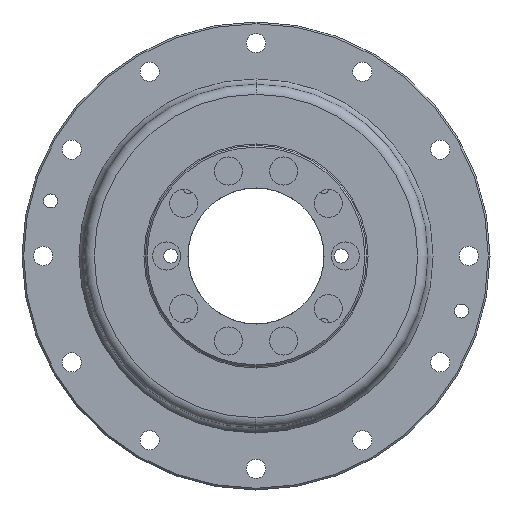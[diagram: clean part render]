
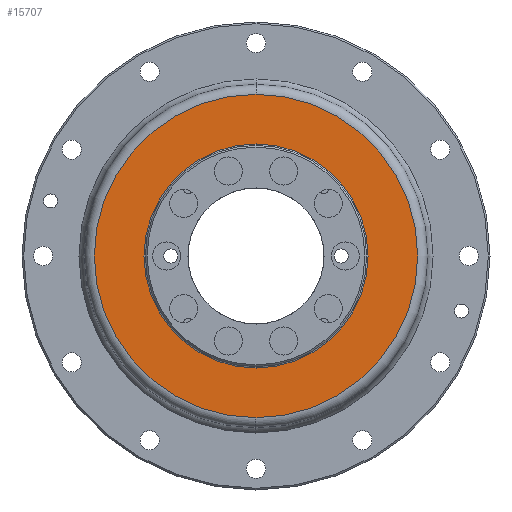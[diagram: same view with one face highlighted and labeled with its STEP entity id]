
A CAD part, left-side view. The second image highlights one B-rep face of the part: STEP entity #15707.
In plain terms, the highlighted planar face has unit normal (-1, 0, 0).
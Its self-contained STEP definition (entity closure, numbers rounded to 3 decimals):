
#686 = CIRCLE ( 'NONE', #1027, 38.004 ) ;
#1015 = CARTESIAN_POINT ( 'NONE',  ( 24.511, 0., 0. ) ) ;
#1027 = AXIS2_PLACEMENT_3D ( 'NONE', #13870, #5548, #15282 ) ;
#1192 = CIRCLE ( 'NONE', #7615, 26.325 ) ;
#1639 = EDGE_CURVE ( 'NONE', #5045, #6490, #16880, .T. ) ;
#1801 = EDGE_CURVE ( 'NONE', #6490, #5045, #1192, .T. ) ;
#1816 = ORIENTED_EDGE ( 'NONE', *, *, #1801, .F. ) ;
#2414 = DIRECTION ( 'NONE',  ( 0., 0., 1. ) ) ;
#2681 = CIRCLE ( 'NONE', #17970, 38.004 ) ;
#3302 = FACE_OUTER_BOUND ( 'NONE', #8883, .T. ) ;
#3627 = PLANE ( 'NONE',  #17500 ) ;
#3727 = FACE_BOUND ( 'NONE', #4811, .T. ) ;
#4627 = CARTESIAN_POINT ( 'NONE',  ( 24.511, 0., -38.004 ) ) ;
#4811 = EDGE_LOOP ( 'NONE', ( #1816, #10421 ) ) ;
#5045 = VERTEX_POINT ( 'NONE', #10617 ) ;
#5311 = DIRECTION ( 'NONE',  ( -1., 0., 0. ) ) ;
#5548 = DIRECTION ( 'NONE',  ( -1., 0., 0. ) ) ;
#5588 = CARTESIAN_POINT ( 'NONE',  ( 24.511, 0., 0. ) ) ;
#6412 = EDGE_CURVE ( 'NONE', #13952, #14065, #2681, .T. ) ;
#6490 = VERTEX_POINT ( 'NONE', #11029 ) ;
#6935 = EDGE_CURVE ( 'NONE', #14065, #13952, #686, .T. ) ;
#6994 = DIRECTION ( 'NONE',  ( 0., 0., 1. ) ) ;
#7615 = AXIS2_PLACEMENT_3D ( 'NONE', #5588, #15329, #6994 ) ;
#8883 = EDGE_LOOP ( 'NONE', ( #14394, #9499 ) ) ;
#9220 = DIRECTION ( 'NONE',  ( 0., 0., -1. ) ) ;
#9499 = ORIENTED_EDGE ( 'NONE', *, *, #6935, .T. ) ;
#10421 = ORIENTED_EDGE ( 'NONE', *, *, #1639, .F. ) ;
#10617 = CARTESIAN_POINT ( 'NONE',  ( 24.511, 0., -26.325 ) ) ;
#10744 = DIRECTION ( 'NONE',  ( -1., 0., 0. ) ) ;
#11029 = CARTESIAN_POINT ( 'NONE',  ( 24.511, 0., 26.325 ) ) ;
#11254 = CARTESIAN_POINT ( 'NONE',  ( 24.511, 0., 38.004 ) ) ;
#11947 = CARTESIAN_POINT ( 'NONE',  ( 24.511, 0., 0. ) ) ;
#12606 = AXIS2_PLACEMENT_3D ( 'NONE', #1015, #10744, #2414 ) ;
#13639 = CARTESIAN_POINT ( 'NONE',  ( 24.511, 0., 0. ) ) ;
#13870 = CARTESIAN_POINT ( 'NONE',  ( 24.511, 0., 0. ) ) ;
#13952 = VERTEX_POINT ( 'NONE', #11254 ) ;
#14065 = VERTEX_POINT ( 'NONE', #4627 ) ;
#14394 = ORIENTED_EDGE ( 'NONE', *, *, #6412, .T. ) ;
#15047 = DIRECTION ( 'NONE',  ( 0., 0., 1. ) ) ;
#15282 = DIRECTION ( 'NONE',  ( 0., 0., 1. ) ) ;
#15329 = DIRECTION ( 'NONE',  ( -1., 0., 0. ) ) ;
#15707 = ADVANCED_FACE ( 'NONE', ( #3727, #3302 ), #3627, .F. ) ;
#16880 = CIRCLE ( 'NONE', #12606, 26.325 ) ;
#17500 = AXIS2_PLACEMENT_3D ( 'NONE', #11947, #17569, #9220 ) ;
#17569 = DIRECTION ( 'NONE',  ( 1., 0., 0. ) ) ;
#17970 = AXIS2_PLACEMENT_3D ( 'NONE', #13639, #5311, #15047 ) ;
